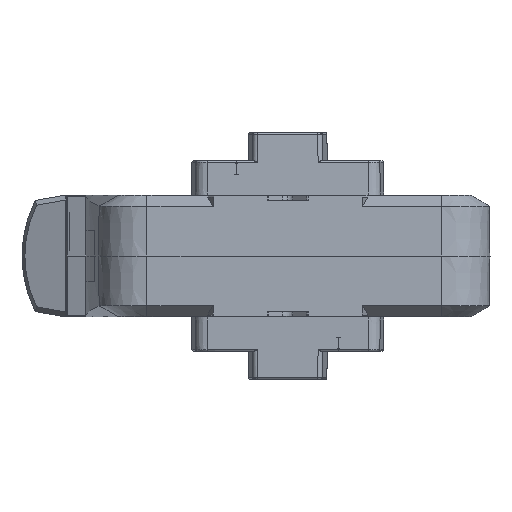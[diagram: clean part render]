
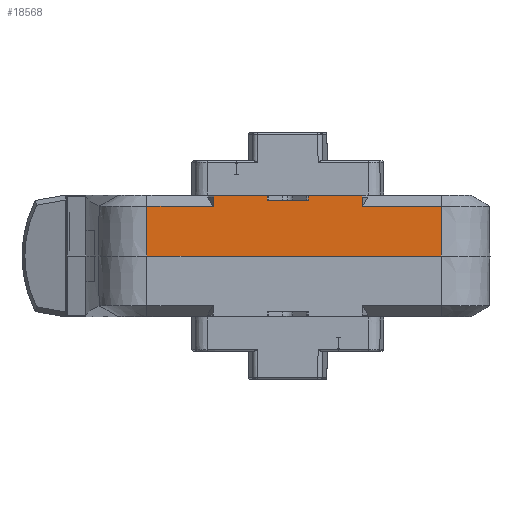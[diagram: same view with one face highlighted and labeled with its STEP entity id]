
A CAD part, left-side view. The second image highlights one B-rep face of the part: STEP entity #18568.
In plain terms, the highlighted planar face has unit normal (-1, 0, 0.009).
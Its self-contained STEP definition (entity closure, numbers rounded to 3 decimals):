
#13570 = CARTESIAN_POINT ( 'NONE',  ( -153., 57.731, -12.5 ) ) ;
#13610 = DIRECTION ( 'NONE',  ( 0., -1., 0. ) ) ;
#13611 = VECTOR ( 'NONE', #13610, 1000. ) ;
#13612 = CARTESIAN_POINT ( 'NONE',  ( -153., 83., -12.5 ) ) ;
#13613 = LINE ( 'NONE', #13612, #13611 ) ;
#13623 = CARTESIAN_POINT ( 'NONE',  ( -153., -63., -12.5 ) ) ;
#15610 = FACE_OUTER_BOUND ( 'NONE', #15835, .T. ) ;
#15616 = CARTESIAN_POINT ( 'NONE',  ( -153., 83., -12.5 ) ) ;
#15661 = PLANE ( 'NONE',  #15705 ) ;
#15694 = DIRECTION ( 'NONE',  ( 0.009, 0., 1. ) ) ;
#15696 = DIRECTION ( 'NONE',  ( -1., 0., 0.009 ) ) ;
#15705 = AXIS2_PLACEMENT_3D ( 'NONE', #15616, #15696, #15694 ) ;
#15835 = EDGE_LOOP ( 'NONE', ( #18694, #18955, #18951, #18967, #18970, #18916, #18914, #18953, #18922, #18960, #18936, #18919, #19059, #18930 ) ) ;
#16382 = CARTESIAN_POINT ( 'NONE',  ( -152.821, 30.587, 7.984 ) ) ;
#16398 = CARTESIAN_POINT ( 'NONE',  ( -152.821, -63., 7.984 ) ) ;
#16506 = DIRECTION ( 'NONE',  ( 0., -1., 0. ) ) ;
#16507 = VECTOR ( 'NONE', #16506, 1000. ) ;
#16509 = CARTESIAN_POINT ( 'NONE',  ( -152.821, 83., 7.984 ) ) ;
#16511 = LINE ( 'NONE', #16509, #16507 ) ;
#16524 = CARTESIAN_POINT ( 'NONE',  ( -152.821, -30.587, 7.984 ) ) ;
#16769 = CARTESIAN_POINT ( 'NONE',  ( -152.821, 57.731, 7.984 ) ) ;
#16806 = DIRECTION ( 'NONE',  ( 0., -1., 0. ) ) ;
#16808 = VECTOR ( 'NONE', #16806, 1000. ) ;
#16810 = CARTESIAN_POINT ( 'NONE',  ( -152.821, 83., 7.984 ) ) ;
#16816 = LINE ( 'NONE', #16810, #16808 ) ;
#16836 = DIRECTION ( 'NONE',  ( 0.006, 0.728, 0.686 ) ) ;
#16837 = VECTOR ( 'NONE', #16836, 1000. ) ;
#16839 = CARTESIAN_POINT ( 'NONE',  ( -152.779, -29.344, 12.843 ) ) ;
#16841 = LINE ( 'NONE', #16839, #16837 ) ;
#16846 = CARTESIAN_POINT ( 'NONE',  ( -152.789, 30.564, 11.7 ) ) ;
#16848 = DIRECTION ( 'NONE',  ( 0., 1., 0. ) ) ;
#16849 = VECTOR ( 'NONE', #16848, 1000. ) ;
#16851 = CARTESIAN_POINT ( 'NONE',  ( -152.784, -8.457, 12.3 ) ) ;
#16853 = LINE ( 'NONE', #16851, #16849 ) ;
#16855 = LINE ( 'NONE', #16872, #16870 ) ;
#16860 = CARTESIAN_POINT ( 'NONE',  ( -152.801, -8.457, 10.35 ) ) ;
#16862 = LINE ( 'NONE', #16962, #16961 ) ;
#16868 = CARTESIAN_POINT ( 'NONE',  ( -152.789, -30.564, 11.693 ) ) ;
#16870 = VECTOR ( 'NONE', #16968, 1000. ) ;
#16872 = CARTESIAN_POINT ( 'NONE',  ( -152.791, -8.457, 11.425 ) ) ;
#16876 = CARTESIAN_POINT ( 'NONE',  ( -152.784, -29.92, 12.3 ) ) ;
#16916 = CARTESIAN_POINT ( 'NONE',  ( -152.801, 30.573, 10.308 ) ) ;
#16917 = LINE ( 'NONE', #16916, #16927 ) ;
#16919 = LINE ( 'NONE', #16977, #17056 ) ;
#16923 = CARTESIAN_POINT ( 'NONE',  ( -152.801, -30.573, 10.308 ) ) ;
#16924 = LINE ( 'NONE', #16923, #17028 ) ;
#16926 = DIRECTION ( 'NONE',  ( 0.009, -0.006, 1. ) ) ;
#16927 = VECTOR ( 'NONE', #16926, 1000. ) ;
#16936 = CARTESIAN_POINT ( 'NONE',  ( -152.784, 29.917, 12.3 ) ) ;
#16938 = DIRECTION ( 'NONE',  ( 0.009, 0., 1. ) ) ;
#16940 = VECTOR ( 'NONE', #16938, 1000. ) ;
#16942 = CARTESIAN_POINT ( 'NONE',  ( -153., -63., -12.5 ) ) ;
#16944 = CARTESIAN_POINT ( 'NONE',  ( -152.784, 8.457, 12.3 ) ) ;
#16947 = LINE ( 'NONE', #16942, #16940 ) ;
#16951 = DIRECTION ( 'NONE',  ( 0., 1., 0. ) ) ;
#16952 = VECTOR ( 'NONE', #16951, 1000. ) ;
#16956 = CARTESIAN_POINT ( 'NONE',  ( -152.784, 30.559, 12.3 ) ) ;
#16959 = DIRECTION ( 'NONE',  ( 0., 1., 0. ) ) ;
#16961 = VECTOR ( 'NONE', #16959, 1000. ) ;
#16962 = CARTESIAN_POINT ( 'NONE',  ( -152.801, 83., 10.35 ) ) ;
#16968 = DIRECTION ( 'NONE',  ( -0.009, 0., -1. ) ) ;
#16970 = LINE ( 'NONE', #16956, #16952 ) ;
#16975 = DIRECTION ( 'NONE',  ( -0.006, 0.734, -0.679 ) ) ;
#16977 = CARTESIAN_POINT ( 'NONE',  ( -152.725, 22.725, 18.96 ) ) ;
#17026 = DIRECTION ( 'NONE',  ( -0.009, -0.006, -1. ) ) ;
#17028 = VECTOR ( 'NONE', #17026, 1000. ) ;
#17046 = DIRECTION ( 'NONE',  ( -0.009, 0., -1. ) ) ;
#17047 = VECTOR ( 'NONE', #17046, 1000. ) ;
#17049 = CARTESIAN_POINT ( 'NONE',  ( -153., 57.731, -12.5 ) ) ;
#17050 = CARTESIAN_POINT ( 'NONE',  ( -152.784, -8.457, 12.3 ) ) ;
#17053 = LINE ( 'NONE', #17049, #17047 ) ;
#17056 = VECTOR ( 'NONE', #16975, 1000. ) ;
#17250 = DIRECTION ( 'NONE',  ( 0.009, 0., 1. ) ) ;
#17251 = VECTOR ( 'NONE', #17250, 1000. ) ;
#17269 = CARTESIAN_POINT ( 'NONE',  ( -152.791, 8.457, 11.425 ) ) ;
#17271 = LINE ( 'NONE', #17269, #17251 ) ;
#17293 = CARTESIAN_POINT ( 'NONE',  ( -152.801, 8.457, 10.35 ) ) ;
#17706 = VERTEX_POINT ( 'NONE', #13570 ) ;
#17731 = VERTEX_POINT ( 'NONE', #13623 ) ;
#17736 = EDGE_CURVE ( 'NONE', #17706, #17731, #13613, .T. ) ;
#18568 = ADVANCED_FACE ( 'NONE', ( #15610 ), #15661, .T. ) ;
#18694 = ORIENTED_EDGE ( 'NONE', *, *, #18941, .T. ) ;
#18756 = VERTEX_POINT ( 'NONE', #16398 ) ;
#18764 = EDGE_CURVE ( 'NONE', #18893, #18773, #16511, .T. ) ;
#18769 = VERTEX_POINT ( 'NONE', #16524 ) ;
#18773 = VERTEX_POINT ( 'NONE', #16382 ) ;
#18873 = EDGE_CURVE ( 'NONE', #18769, #18756, #16816, .T. ) ;
#18893 = VERTEX_POINT ( 'NONE', #16769 ) ;
#18914 = ORIENTED_EDGE ( 'NONE', *, *, #18943, .T. ) ;
#18916 = ORIENTED_EDGE ( 'NONE', *, *, #17736, .T. ) ;
#18917 = VERTEX_POINT ( 'NONE', #16868 ) ;
#18918 = EDGE_CURVE ( 'NONE', #18920, #18964, #16853, .T. ) ;
#18919 = ORIENTED_EDGE ( 'NONE', *, *, #18937, .T. ) ;
#18920 = VERTEX_POINT ( 'NONE', #16876 ) ;
#18922 = ORIENTED_EDGE ( 'NONE', *, *, #18969, .F. ) ;
#18924 = EDGE_CURVE ( 'NONE', #18917, #18920, #16841, .T. ) ;
#18930 = ORIENTED_EDGE ( 'NONE', *, *, #19060, .T. ) ;
#18936 = ORIENTED_EDGE ( 'NONE', *, *, #18918, .T. ) ;
#18937 = EDGE_CURVE ( 'NONE', #18964, #18947, #16855, .T. ) ;
#18940 = EDGE_CURVE ( 'NONE', #18947, #19054, #16862, .T. ) ;
#18941 = EDGE_CURVE ( 'NONE', #18945, #18950, #16970, .T. ) ;
#18943 = EDGE_CURVE ( 'NONE', #17731, #18756, #16947, .T. ) ;
#18945 = VERTEX_POINT ( 'NONE', #16944 ) ;
#18946 = VERTEX_POINT ( 'NONE', #16846 ) ;
#18947 = VERTEX_POINT ( 'NONE', #16860 ) ;
#18950 = VERTEX_POINT ( 'NONE', #16936 ) ;
#18951 = ORIENTED_EDGE ( 'NONE', *, *, #18958, .F. ) ;
#18953 = ORIENTED_EDGE ( 'NONE', *, *, #18873, .F. ) ;
#18955 = ORIENTED_EDGE ( 'NONE', *, *, #18961, .T. ) ;
#18958 = EDGE_CURVE ( 'NONE', #18773, #18946, #16917, .T. ) ;
#18960 = ORIENTED_EDGE ( 'NONE', *, *, #18924, .T. ) ;
#18961 = EDGE_CURVE ( 'NONE', #18950, #18946, #16919, .T. ) ;
#18962 = EDGE_CURVE ( 'NONE', #18893, #17706, #17053, .T. ) ;
#18964 = VERTEX_POINT ( 'NONE', #17050 ) ;
#18967 = ORIENTED_EDGE ( 'NONE', *, *, #18764, .F. ) ;
#18969 = EDGE_CURVE ( 'NONE', #18917, #18769, #16924, .T. ) ;
#18970 = ORIENTED_EDGE ( 'NONE', *, *, #18962, .T. ) ;
#19054 = VERTEX_POINT ( 'NONE', #17293 ) ;
#19059 = ORIENTED_EDGE ( 'NONE', *, *, #18940, .T. ) ;
#19060 = EDGE_CURVE ( 'NONE', #19054, #18945, #17271, .T. ) ;
